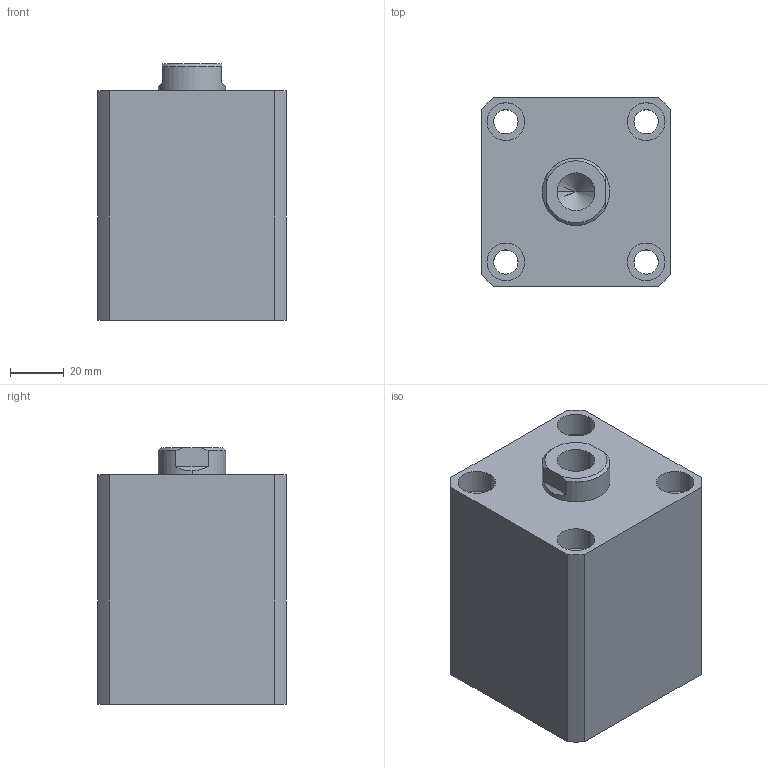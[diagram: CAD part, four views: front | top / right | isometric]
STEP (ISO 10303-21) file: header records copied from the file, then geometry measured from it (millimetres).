
FILE_DESCRIPTION (( 'STEP AP203' ), '1' );
FILE_NAME ('HTB-SDMB40-30N.STEP', '2019-10-09T01:50:24', ( '微软用户' ), ( '微软中国' ), 'SwSTEP 2.0', 'SolidWorks 2012', '' );
FILE_SCHEMA (( 'CONFIG_CONTROL_DESIGN' ));
Length unit declared in the file: millimetre
Products named in the file (3): HTB-SDMB40-30N活塞杆; HTB-SDMB40-30掛极; HTB-SDMB40-30N
Assembly tree (2 placements, depth 2):
  HTB-SDMB40-30N
    HTB-SDMB40-30掛极
    HTB-SDMB40-30N活塞杆
Bounding box: 70 x 70 x 95 mm (x, y, z)
Volume: 362542.3 mm3; surface area: 64012.2 mm2
Topology: 2 solids, 2 shells, 137 faces, 331 edges, 217 vertices
Faces by surface type: plane 65, cylinder 46, bspline 16, torus 6, cone 4
Entity records: 5074 total; most frequent: CARTESIAN_POINT 1580, ORIENTED_EDGE 658, DIRECTION 647, EDGE_CURVE 329, AXIS2_PLACEMENT_3D 232, VERTEX_POINT 217, VECTOR 183, LINE 183
